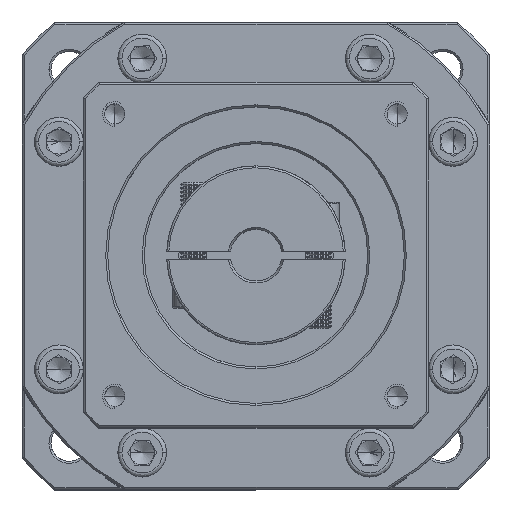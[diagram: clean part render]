
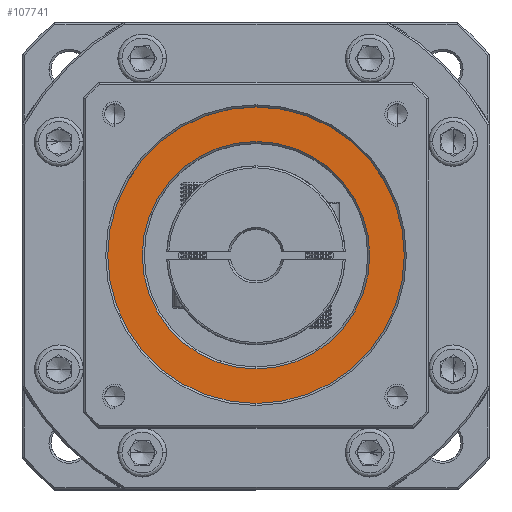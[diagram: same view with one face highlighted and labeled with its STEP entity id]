
A CAD part, top view. The second image highlights one B-rep face of the part: STEP entity #107741.
In plain terms, the highlighted planar face has unit normal (0, 0, 1).
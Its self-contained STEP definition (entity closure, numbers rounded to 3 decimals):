
#2319 = VERTEX_POINT ( 'NONE', #84618 ) ;
#4901 = ORIENTED_EDGE ( 'NONE', *, *, #16870, .T. ) ;
#8002 = DIRECTION ( 'NONE',  ( 0., 1., 0. ) ) ;
#10202 = DIRECTION ( 'NONE',  ( 0., 0., 1. ) ) ;
#15453 = AXIS2_PLACEMENT_3D ( 'NONE', #54621, #120010, #63981 ) ;
#16627 = PLANE ( 'NONE',  #15453 ) ;
#16870 = EDGE_CURVE ( 'NONE', #2319, #47649, #112215, .T. ) ;
#17085 = EDGE_CURVE ( 'NONE', #47649, #2319, #71217, .T. ) ;
#26735 = CARTESIAN_POINT ( 'NONE',  ( -52.482, -27.917, 265.002 ) ) ;
#33117 = CARTESIAN_POINT ( 'NONE',  ( -52.482, 8.583, 265.002 ) ) ;
#34925 = FACE_OUTER_BOUND ( 'NONE', #36093, .T. ) ;
#35872 = VERTEX_POINT ( 'NONE', #26735 ) ;
#36093 = EDGE_LOOP ( 'NONE', ( #46982, #85639 ) ) ;
#39829 = EDGE_LOOP ( 'NONE', ( #4901, #67281 ) ) ;
#41276 = AXIS2_PLACEMENT_3D ( 'NONE', #33117, #98517, #42525 ) ;
#42525 = DIRECTION ( 'NONE',  ( 0., 1., 0. ) ) ;
#46982 = ORIENTED_EDGE ( 'NONE', *, *, #81666, .T. ) ;
#47649 = VERTEX_POINT ( 'NONE', #78043 ) ;
#54621 = CARTESIAN_POINT ( 'NONE',  ( -52.482, 8.583, 265.002 ) ) ;
#55128 = CARTESIAN_POINT ( 'NONE',  ( -52.482, 8.583, 265.002 ) ) ;
#56906 = VERTEX_POINT ( 'NONE', #69748 ) ;
#59886 = CIRCLE ( 'NONE', #90558, 36.5 ) ;
#63981 = DIRECTION ( 'NONE',  ( 0., 1., 0. ) ) ;
#64034 = DIRECTION ( 'NONE',  ( 0., 0., 1. ) ) ;
#64484 = DIRECTION ( 'NONE',  ( 0., 1., 0. ) ) ;
#66217 = CARTESIAN_POINT ( 'NONE',  ( -52.482, 8.583, 265.002 ) ) ;
#67281 = ORIENTED_EDGE ( 'NONE', *, *, #17085, .T. ) ;
#69748 = CARTESIAN_POINT ( 'NONE',  ( -52.482, 45.083, 265.002 ) ) ;
#71217 = CIRCLE ( 'NONE', #76585, 28. ) ;
#75639 = DIRECTION ( 'NONE',  ( 0., 1., 0. ) ) ;
#76585 = AXIS2_PLACEMENT_3D ( 'NONE', #55128, #120509, #64484 ) ;
#78043 = CARTESIAN_POINT ( 'NONE',  ( -52.482, -19.417, 265.002 ) ) ;
#81666 = EDGE_CURVE ( 'NONE', #56906, #35872, #59886, .T. ) ;
#81699 = FACE_BOUND ( 'NONE', #39829, .T. ) ;
#83491 = CIRCLE ( 'NONE', #116489, 36.5 ) ;
#84618 = CARTESIAN_POINT ( 'NONE',  ( -52.482, 36.583, 265.002 ) ) ;
#85639 = ORIENTED_EDGE ( 'NONE', *, *, #92183, .T. ) ;
#90558 = AXIS2_PLACEMENT_3D ( 'NONE', #120068, #64034, #8002 ) ;
#92183 = EDGE_CURVE ( 'NONE', #35872, #56906, #83491, .T. ) ;
#98517 = DIRECTION ( 'NONE',  ( 0., 0., -1. ) ) ;
#107741 = ADVANCED_FACE ( 'NONE', ( #34925, #81699 ), #16627, .T. ) ;
#112215 = CIRCLE ( 'NONE', #41276, 28. ) ;
#116489 = AXIS2_PLACEMENT_3D ( 'NONE', #66217, #10202, #75639 ) ;
#120010 = DIRECTION ( 'NONE',  ( 0., 0., 1. ) ) ;
#120068 = CARTESIAN_POINT ( 'NONE',  ( -52.482, 8.583, 265.002 ) ) ;
#120509 = DIRECTION ( 'NONE',  ( 0., 0., -1. ) ) ;
